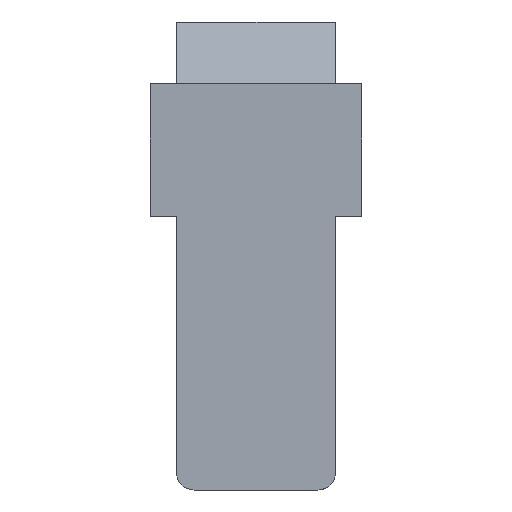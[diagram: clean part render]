
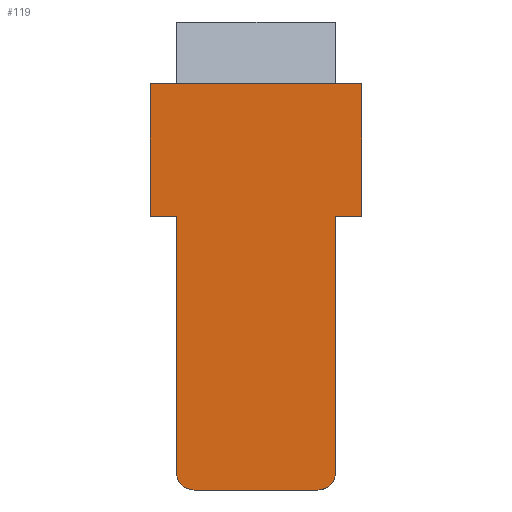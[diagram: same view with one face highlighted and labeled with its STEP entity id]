
A CAD part, left-side view. The second image highlights one B-rep face of the part: STEP entity #119.
In plain terms, the highlighted planar face has unit normal (-1, 0, 0).
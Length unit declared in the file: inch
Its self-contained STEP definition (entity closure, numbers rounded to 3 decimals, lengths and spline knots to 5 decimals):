
#119=ADVANCED_FACE('',(#201),#159,.T.);
#159=PLANE('',#860);
#201=FACE_OUTER_BOUND('',#245,.T.);
#245=EDGE_LOOP('',(#337,#338,#339,#340,#341,#342,#343,#344,#345,#346));
#337=ORIENTED_EDGE('',*,*,#645,.F.);
#338=ORIENTED_EDGE('',*,*,#620,.T.);
#339=ORIENTED_EDGE('',*,*,#601,.T.);
#340=ORIENTED_EDGE('',*,*,#625,.T.);
#341=ORIENTED_EDGE('',*,*,#646,.F.);
#342=ORIENTED_EDGE('',*,*,#647,.F.);
#343=ORIENTED_EDGE('',*,*,#648,.F.);
#344=ORIENTED_EDGE('',*,*,#649,.F.);
#345=ORIENTED_EDGE('',*,*,#650,.F.);
#346=ORIENTED_EDGE('',*,*,#651,.F.);
#521=VERTEX_POINT('',#985);
#522=VERTEX_POINT('',#986);
#537=VERTEX_POINT('',#1090);
#540=VERTEX_POINT('',#1110);
#553=VERTEX_POINT('',#1215);
#554=VERTEX_POINT('',#1220);
#555=VERTEX_POINT('',#1225);
#556=VERTEX_POINT('',#1230);
#557=VERTEX_POINT('',#1235);
#558=VERTEX_POINT('',#1240);
#601=EDGE_CURVE('',#521,#522,#723,.T.);
#620=EDGE_CURVE('',#537,#521,#742,.T.);
#625=EDGE_CURVE('',#522,#540,#747,.T.);
#645=EDGE_CURVE('',#537,#553,#767,.T.);
#646=EDGE_CURVE('',#554,#540,#768,.T.);
#647=EDGE_CURVE('',#555,#554,#769,.T.);
#648=EDGE_CURVE('',#556,#555,#770,.T.);
#649=EDGE_CURVE('',#557,#556,#771,.T.);
#650=EDGE_CURVE('',#558,#557,#772,.T.);
#651=EDGE_CURVE('',#553,#558,#773,.T.);
#723=B_SPLINE_CURVE_WITH_KNOTS('',3,(#981,#982,#983,#984),.UNSPECIFIED.,
.F.,.F.,(4,4),(0.,1.),.UNSPECIFIED.);
#742=B_SPLINE_CURVE_WITH_KNOTS('',3,(#1086,#1087,#1088,#1089),.UNSPECIFIED.,
.F.,.F.,(4,4),(0.,1.),.UNSPECIFIED.);
#747=B_SPLINE_CURVE_WITH_KNOTS('',3,(#1111,#1112,#1113,#1114),.UNSPECIFIED.,
.F.,.F.,(4,4),(0.,1.),.UNSPECIFIED.);
#767=B_SPLINE_CURVE_WITH_KNOTS('',3,(#1211,#1212,#1213,#1214),.UNSPECIFIED.,
.F.,.F.,(4,4),(0.,1.),.UNSPECIFIED.);
#768=B_SPLINE_CURVE_WITH_KNOTS('',3,(#1216,#1217,#1218,#1219),.UNSPECIFIED.,
.F.,.F.,(4,4),(0.,1.),.UNSPECIFIED.);
#769=B_SPLINE_CURVE_WITH_KNOTS('',3,(#1221,#1222,#1223,#1224),.UNSPECIFIED.,
.F.,.F.,(4,4),(0.,1.),.UNSPECIFIED.);
#770=B_SPLINE_CURVE_WITH_KNOTS('',3,(#1226,#1227,#1228,#1229),.UNSPECIFIED.,
.F.,.F.,(4,4),(0.,1.),.UNSPECIFIED.);
#771=B_SPLINE_CURVE_WITH_KNOTS('',3,(#1231,#1232,#1233,#1234),.UNSPECIFIED.,
.F.,.F.,(4,4),(0.,1.),.UNSPECIFIED.);
#772=B_SPLINE_CURVE_WITH_KNOTS('',3,(#1236,#1237,#1238,#1239),.UNSPECIFIED.,
.F.,.F.,(4,4),(0.,1.),.UNSPECIFIED.);
#773=B_SPLINE_CURVE_WITH_KNOTS('',3,(#1241,#1242,#1243,#1244),.UNSPECIFIED.,
.F.,.F.,(4,4),(0.,1.),.UNSPECIFIED.);
#860=AXIS2_PLACEMENT_3D('',#1245,#920,#921);
#920=DIRECTION('',(-1.,0.,0.));
#921=DIRECTION('',(0.,0.,1.));
#981=CARTESIAN_POINT('',(-0.4,0.19,0.));
#982=CARTESIAN_POINT('',(-0.4,0.14333,0.));
#983=CARTESIAN_POINT('',(-0.4,0.09667,0.));
#984=CARTESIAN_POINT('',(-0.4,0.05,0.));
#985=CARTESIAN_POINT('',(-0.4,0.19,0.));
#986=CARTESIAN_POINT('',(-0.4,0.05,0.));
#1086=CARTESIAN_POINT('',(-0.4,0.21,0.02));
#1087=CARTESIAN_POINT('',(-0.4,0.20994,0.00898));
#1088=CARTESIAN_POINT('',(-0.4,0.20105,-0.00003));
#1089=CARTESIAN_POINT('',(-0.4,0.19,0.));
#1090=CARTESIAN_POINT('',(-0.4,0.21,0.02));
#1110=CARTESIAN_POINT('',(-0.4,0.03,0.02));
#1111=CARTESIAN_POINT('',(-0.4,0.05,0.));
#1112=CARTESIAN_POINT('',(-0.4,0.03898,0.00006));
#1113=CARTESIAN_POINT('',(-0.4,0.02997,0.00895));
#1114=CARTESIAN_POINT('',(-0.4,0.03,0.02));
#1211=CARTESIAN_POINT('',(-0.4,0.21,0.02));
#1212=CARTESIAN_POINT('',(-0.4,0.21,0.11667));
#1213=CARTESIAN_POINT('',(-0.4,0.21,0.21333));
#1214=CARTESIAN_POINT('',(-0.4,0.21,0.31));
#1215=CARTESIAN_POINT('',(-0.4,0.21,0.31));
#1216=CARTESIAN_POINT('',(-0.4,0.03,0.31));
#1217=CARTESIAN_POINT('',(-0.4,0.03,0.21333));
#1218=CARTESIAN_POINT('',(-0.4,0.03,0.11667));
#1219=CARTESIAN_POINT('',(-0.4,0.03,0.02));
#1220=CARTESIAN_POINT('',(-0.4,0.03,0.31));
#1221=CARTESIAN_POINT('',(-0.4,0.,0.31));
#1222=CARTESIAN_POINT('',(-0.4,0.01,0.31));
#1223=CARTESIAN_POINT('',(-0.4,0.02,0.31));
#1224=CARTESIAN_POINT('',(-0.4,0.03,0.31));
#1225=CARTESIAN_POINT('',(-0.4,0.,0.31));
#1226=CARTESIAN_POINT('',(-0.4,0.,0.46));
#1227=CARTESIAN_POINT('',(-0.4,0.,0.41));
#1228=CARTESIAN_POINT('',(-0.4,0.,0.36));
#1229=CARTESIAN_POINT('',(-0.4,0.,0.31));
#1230=CARTESIAN_POINT('',(-0.4,0.,0.46));
#1231=CARTESIAN_POINT('',(-0.4,0.24,0.46));
#1232=CARTESIAN_POINT('',(-0.4,0.16,0.46));
#1233=CARTESIAN_POINT('',(-0.4,0.08,0.46));
#1234=CARTESIAN_POINT('',(-0.4,0.,0.46));
#1235=CARTESIAN_POINT('',(-0.4,0.24,0.46));
#1236=CARTESIAN_POINT('',(-0.4,0.24,0.31));
#1237=CARTESIAN_POINT('',(-0.4,0.24,0.36));
#1238=CARTESIAN_POINT('',(-0.4,0.24,0.41));
#1239=CARTESIAN_POINT('',(-0.4,0.24,0.46));
#1240=CARTESIAN_POINT('',(-0.4,0.24,0.31));
#1241=CARTESIAN_POINT('',(-0.4,0.21,0.31));
#1242=CARTESIAN_POINT('',(-0.4,0.22,0.31));
#1243=CARTESIAN_POINT('',(-0.4,0.23,0.31));
#1244=CARTESIAN_POINT('',(-0.4,0.24,0.31));
#1245=CARTESIAN_POINT('',(-0.4,-0.12,-0.23));
